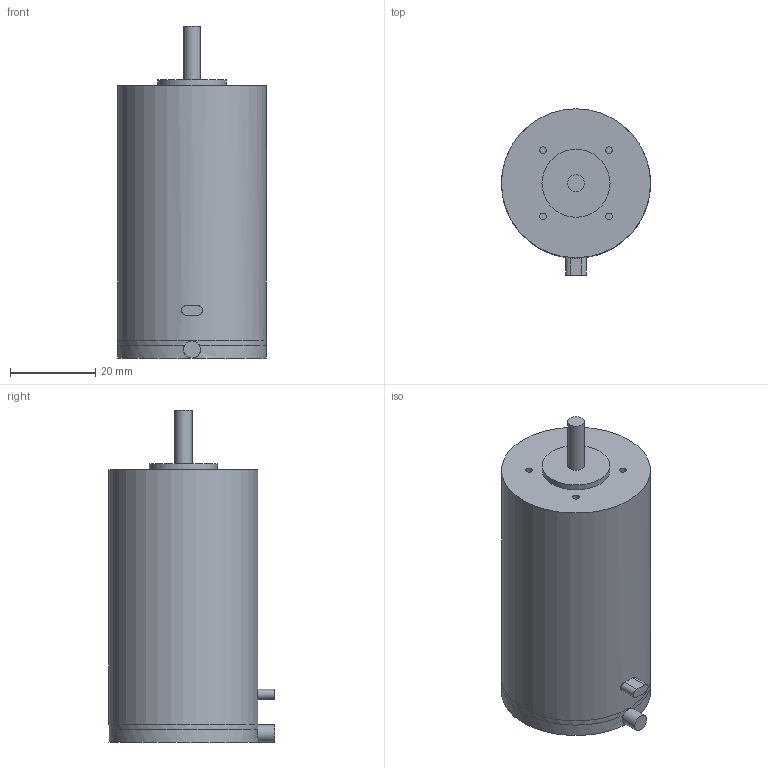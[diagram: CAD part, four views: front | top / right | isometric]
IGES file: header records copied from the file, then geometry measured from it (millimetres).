
Global section: file name: No Iges File Name specified; native system: Autodesk Inventor 2012; preprocessor: AutoDesk Inventor Iges Exporter R2012; author: mangiullo; date: 20130920.111746; units: millimetre
Bounding box: 35 x 39 x 78 mm (x, y, z)
Volume: 62068.2 mm3; surface area: 9390.2 mm2
Topology: 1 solids, 1 shells, 24 faces, 47 edges, 31 vertices
Faces by surface type: plane 12, cylinder 8, revolution 4
Full cylindrical faces by diameter (mm): 4 x2, 16 x1, 35 x3
